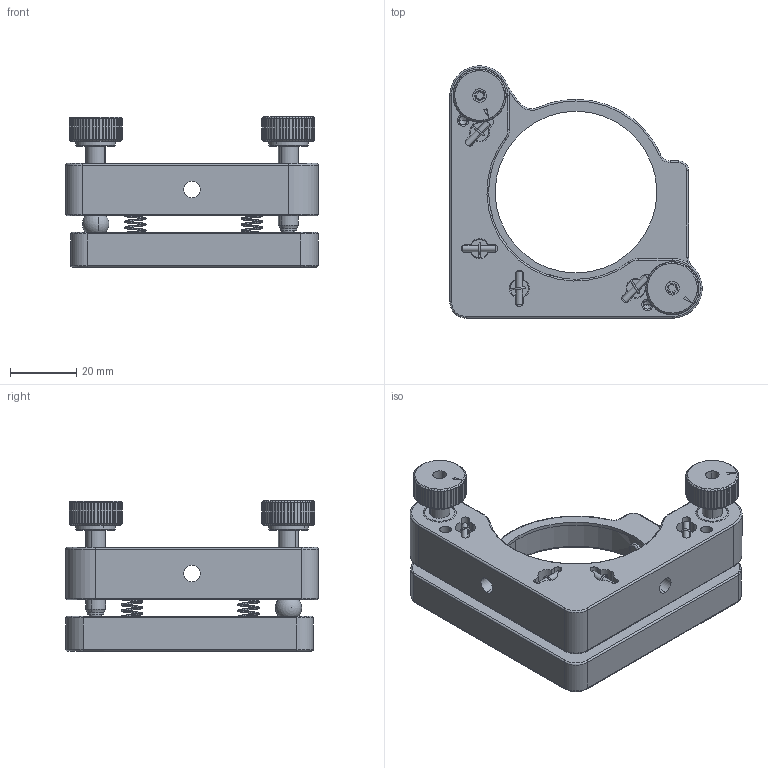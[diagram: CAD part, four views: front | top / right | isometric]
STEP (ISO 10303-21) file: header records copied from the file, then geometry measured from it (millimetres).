
FILE_DESCRIPTION (( 'STEP AP203' ), '1' );
FILE_NAME ('M-TMSO-2R-HOX.STEP', '2020-08-14T07:48:19', ( '匠星' ), ( '' ), 'SwSTEP 2.0', 'SolidWorks 2019', '' );
FILE_SCHEMA (( 'CONFIG_CONTROL_DESIGN' ));
Length unit declared in the file: millimetre
Products named in the file (1): M-TMSO-2R-HOX
Bounding box: 76.2 x 76.2 x 45.3 mm (x, y, z)
Surface area: 24593.4 mm2 (no closed solid volume)
Topology: 0 solids, 17 shells, 867 faces, 2258 edges, 1443 vertices
Faces by surface type: cylinder 393, plane 338, torus 66, cone 36, sphere 22, bspline 12
Entity records: 36194 total; most frequent: CARTESIAN_POINT 15760, ORIENTED_EDGE 4446, DIRECTION 4117, EDGE_CURVE 2229, AXIS2_PLACEMENT_3D 1655, VERTEX_POINT 1436, EDGE_LOOP 929, FACE_OUTER_BOUND 867
